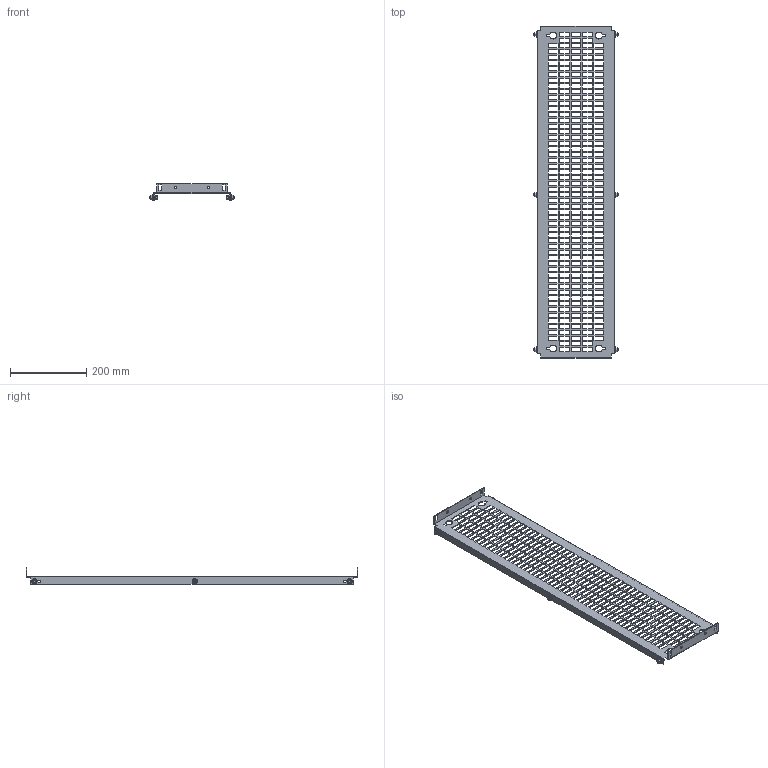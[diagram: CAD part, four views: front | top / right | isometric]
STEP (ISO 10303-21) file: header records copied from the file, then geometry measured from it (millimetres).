
FILE_DESCRIPTION(('Open CASCADE Model'),'2;1');
FILE_NAME('Open CASCADE Shape Model','2025-02-19T16:48:37',('Author'),( 'Open CASCADE'),'Open CASCADE STEP processor 7.8','Open CASCADE 7.8' ,'Unknown');
FILE_SCHEMA(('AUTOMOTIVE_DESIGN { 1 0 10303 214 1 1 1 1 }'));
Length unit declared in the file: millimetre
Products named in the file (4): Compound1; Solid1; Solid2; Solid3
Assembly tree (13 placements, depth 2):
  Compound1
    Solid1
    Solid2  x6
    Solid3  x6
Bounding box: 220 x 869 x 43 mm (x, y, z)
Volume: 270876.3 mm3; surface area: 316049.3 mm2
Topology: 13 solids, 13 shells, 1484 faces, 4195 edges, 2743 vertices
Faces by surface type: plane 1256, cone 102, bspline 72, cylinder 36, torus 18
Full cylindrical faces by diameter (mm): 5 x6, 6 x12, 7 x14
Entity records: 41814 total; most frequent: CARTESIAN_POINT 7875, ORIENTED_EDGE 7260, DIRECTION 6070, EDGE_CURVE 3630, LINE 3472, VECTOR 3472, VERTEX_POINT 2413, FACE_BOUND 1815
